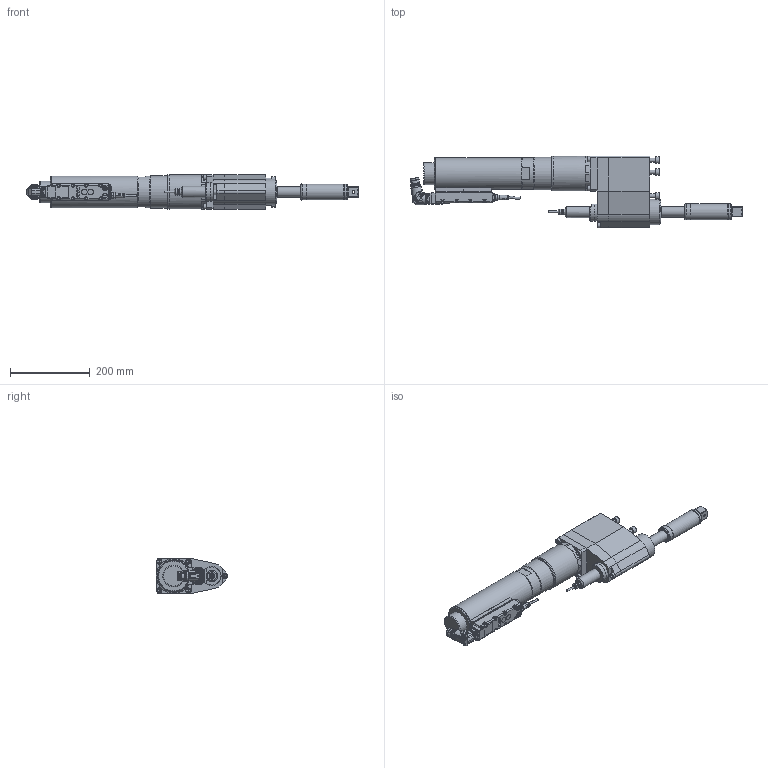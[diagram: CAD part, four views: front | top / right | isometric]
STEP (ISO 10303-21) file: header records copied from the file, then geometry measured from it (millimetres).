
FILE_DESCRIPTION (( 'STEP AP214' ), '1' );
FILE_NAME ('70082484_ESX480AODX460-800.STEP', '2016-11-14T13:11:22', ( 'admin' ), ( '' ), 'SwSTEP 2.0', 'SolidWorks 2014', '' );
FILE_SCHEMA (( 'AUTOMOTIVE_DESIGN' ));
Length unit declared in the file: millimetre
Products named in the file (10): 70057493_3; 70057493_2; 70082312; 70082484_ESX480AODX460-800; 7006176_3; 70082387; 70082312_ESX480_Standard_Winkel; 70082293_2; 70057493_Standard_winkel; 70057493_4
Assembly tree (9 placements, depth 4):
  70082484_ESX480AODX460-800
    70082312_ESX480_Standard_Winkel
      70082312
      70057493_Standard_winkel
        70057493_2
        70057493_3
        70057493_4
      70082293_2
    70082387
    7006176_3
Bounding box: 834.76 x 180.58 x 88 mm (x, y, z)
Volume: 4629760.4 mm3; surface area: 342694 mm2
Topology: 11 solids, 11 shells, 2105 faces, 5446 edges, 3527 vertices
Faces by surface type: plane 1032, cylinder 520, bspline 262, cone 225, torus 63, sphere 3
Full cylindrical faces by diameter (mm): 0.5 x7, 0.57 x14, 2 x3, 3 x4, 4.2 x1, 4.9 x2, 5 x4, 5.5 x12, 6 x2, 6.8 x6, 8 x17, 8.459 x2, 9 x1, 9.1 x1, 10 x5, 11.08 x1, 12.3 x1, 13 x5, 14 x2, 14.5 x2, 16 x5, 17.4 x1, 20 x1, 21.15 x1, 21.5 x1, 21.7 x1, 22.3 x1, 24.3 x1, 24.75 x1, 26 x1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
Entity records: 76007 total; most frequent: CARTESIAN_POINT 26583, ORIENTED_EDGE 10068, DIRECTION 8687, EDGE_CURVE 5034, VERTEX_POINT 3405, AXIS2_PLACEMENT_3D 3168, EDGE_LOOP 2569, VECTOR 2351
